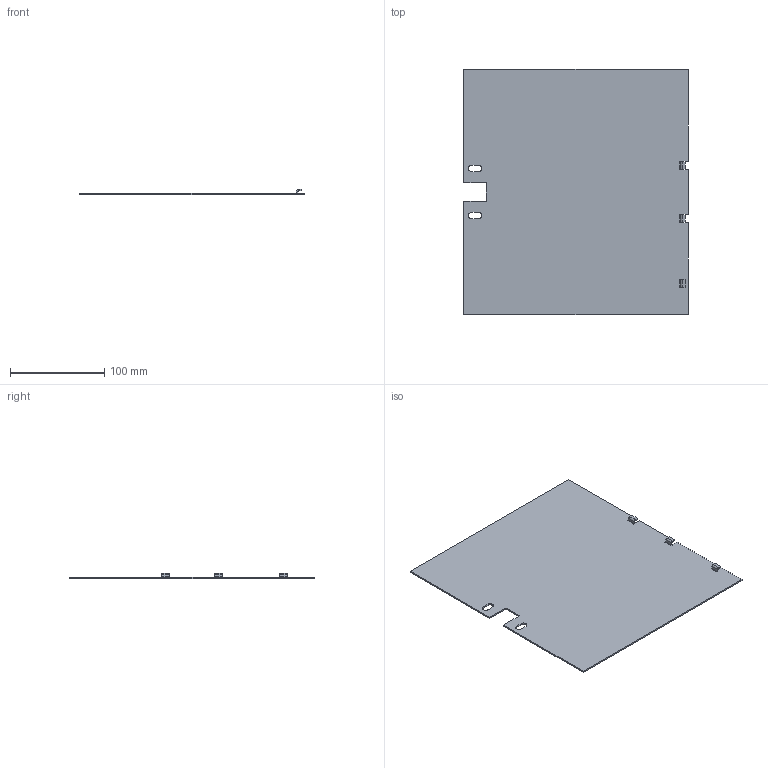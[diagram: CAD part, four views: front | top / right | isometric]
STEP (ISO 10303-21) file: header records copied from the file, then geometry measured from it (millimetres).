
FILE_DESCRIPTION (( 'STEP AP203' ), '1' );
FILE_NAME ('EUSV-025030.STEP', '2015-04-22T09:37:38', ( 'Admin' ), ( '' ), 'SwSTEP 2.0', 'SolidWorks 2014', '' );
FILE_SCHEMA (( 'CONFIG_CONTROL_DESIGN' ));
Length unit declared in the file: millimetre
Products named in the file (1): EUSV-025030
Bounding box: 238 x 260 x 5.95 mm (x, y, z)
Volume: 91882.6 mm3; surface area: 124309 mm2
Topology: 1 solids, 1 shells, 66 faces, 181 edges, 118 vertices
Faces by surface type: plane 48, cylinder 18
Entity records: 2162 total; most frequent: CARTESIAN_POINT 366, ORIENTED_EDGE 362, DIRECTION 351, EDGE_CURVE 181, VECTOR 145, LINE 145, VERTEX_POINT 118, AXIS2_PLACEMENT_3D 103
